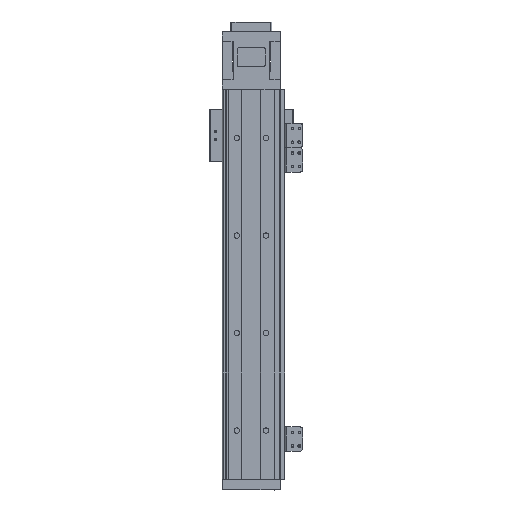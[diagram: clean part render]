
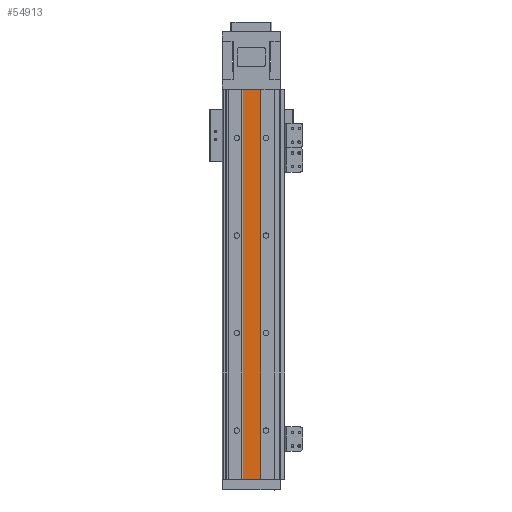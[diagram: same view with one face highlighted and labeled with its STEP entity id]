
A CAD part, front view. The second image highlights one B-rep face of the part: STEP entity #54913.
In plain terms, the highlighted planar face has unit normal (0, -1, 0).
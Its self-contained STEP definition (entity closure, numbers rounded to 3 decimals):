
#8569 = VERTEX_POINT ( 'NONE', #43259 ) ;
#10645 = CARTESIAN_POINT ( 'NONE',  ( -2.845, 19.907, 400. ) ) ;
#12650 = VERTEX_POINT ( 'NONE', #12809 ) ;
#12809 = CARTESIAN_POINT ( 'NONE',  ( -20.745, 19.907, 0. ) ) ;
#15377 = DIRECTION ( 'NONE',  ( 0., 0., -1. ) ) ;
#15629 = EDGE_CURVE ( 'NONE', #8569, #63244, #17994, .T. ) ;
#17543 = EDGE_CURVE ( 'NONE', #63244, #12650, #40852, .T. ) ;
#17672 = ORIENTED_EDGE ( 'NONE', *, *, #17543, .F. ) ;
#17994 = LINE ( 'NONE', #10645, #38783 ) ;
#18132 = DIRECTION ( 'NONE',  ( 0., 0., 1. ) ) ;
#18318 = ORIENTED_EDGE ( 'NONE', *, *, #24983, .F. ) ;
#21141 = EDGE_CURVE ( 'NONE', #36455, #8569, #46774, .T. ) ;
#23205 = EDGE_LOOP ( 'NONE', ( #53966, #25125, #18318, #17672 ) ) ;
#24983 = EDGE_CURVE ( 'NONE', #12650, #36455, #61941, .T. ) ;
#25125 = ORIENTED_EDGE ( 'NONE', *, *, #21141, .F. ) ;
#32191 = DIRECTION ( 'NONE',  ( 1., 0., 0. ) ) ;
#35671 = VECTOR ( 'NONE', #18132, 1000. ) ;
#36455 = VERTEX_POINT ( 'NONE', #60667 ) ;
#38783 = VECTOR ( 'NONE', #15377, 1000. ) ;
#38965 = DIRECTION ( 'NONE',  ( -1., 0., 0. ) ) ;
#39466 = CARTESIAN_POINT ( 'NONE',  ( -2.845, 19.907, 0. ) ) ;
#40852 = LINE ( 'NONE', #62997, #49413 ) ;
#41732 = CARTESIAN_POINT ( 'NONE',  ( -20.745, 19.907, 400. ) ) ;
#43259 = CARTESIAN_POINT ( 'NONE',  ( -2.845, 19.907, 400. ) ) ;
#44922 = FACE_OUTER_BOUND ( 'NONE', #23205, .T. ) ;
#45902 = PLANE ( 'NONE',  #56752 ) ;
#46774 = LINE ( 'NONE', #46843, #48353 ) ;
#46843 = CARTESIAN_POINT ( 'NONE',  ( -20.745, 19.907, 400. ) ) ;
#47621 = CARTESIAN_POINT ( 'NONE',  ( -20.745, 19.907, 400. ) ) ;
#48353 = VECTOR ( 'NONE', #32191, 1000. ) ;
#49413 = VECTOR ( 'NONE', #38965, 1000. ) ;
#50895 = DIRECTION ( 'NONE',  ( 0., 1., 0. ) ) ;
#53966 = ORIENTED_EDGE ( 'NONE', *, *, #15629, .F. ) ;
#54913 = ADVANCED_FACE ( 'NONE', ( #44922 ), #45902, .F. ) ;
#56124 = DIRECTION ( 'NONE',  ( 0., 0., 1. ) ) ;
#56752 = AXIS2_PLACEMENT_3D ( 'NONE', #41732, #50895, #56124 ) ;
#60667 = CARTESIAN_POINT ( 'NONE',  ( -20.745, 19.907, 400. ) ) ;
#61941 = LINE ( 'NONE', #47621, #35671 ) ;
#62997 = CARTESIAN_POINT ( 'NONE',  ( -20.745, 19.907, 0. ) ) ;
#63244 = VERTEX_POINT ( 'NONE', #39466 ) ;
